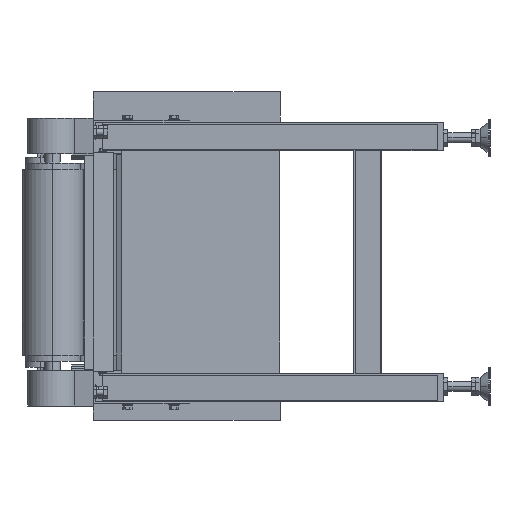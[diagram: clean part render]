
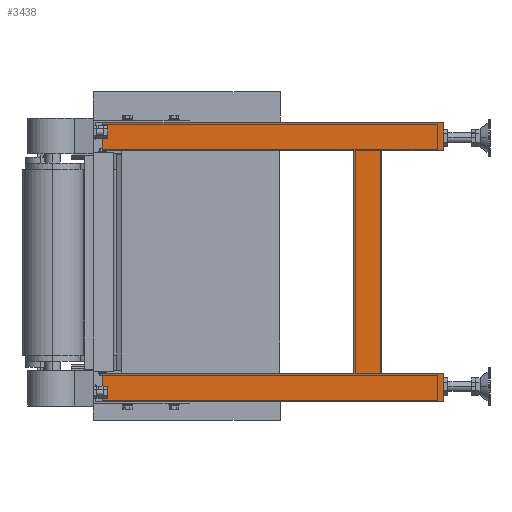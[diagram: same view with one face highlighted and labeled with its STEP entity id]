
A CAD part, left-side view. The second image highlights one B-rep face of the part: STEP entity #3438.
In plain terms, the highlighted planar face has unit normal (-1, 0, 0).
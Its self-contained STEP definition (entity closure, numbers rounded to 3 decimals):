
#3438=ADVANCED_FACE('',(#22634),#22633,.T.);
#22633=PLANE('',#38204);
#22634=FACE_OUTER_BOUND('',#38205,.T.);
#38201=CARTESIAN_POINT('',(262.5,-685.,-235.));
#38202=DIRECTION('',(-1.,0.,0.));
#38203=DIRECTION('',(0.,0.,1.));
#38204=AXIS2_PLACEMENT_3D('',#38201,#38202,#38203);
#38205=EDGE_LOOP('',(#50284,#50285,#50286,#50287,#50288,#50289,#50290,#50291,#50292,#50293,#50294,#50295,#50296,#50297,#50298,#50299,#50300,#50301));
#50284=ORIENTED_EDGE('',*,*,#57246,.F.);
#50285=ORIENTED_EDGE('',*,*,#57260,.F.);
#50286=ORIENTED_EDGE('',*,*,#56938,.T.);
#50287=ORIENTED_EDGE('',*,*,#57343,.T.);
#50288=ORIENTED_EDGE('',*,*,#57335,.T.);
#50289=ORIENTED_EDGE('',*,*,#57290,.F.);
#50290=ORIENTED_EDGE('',*,*,#57475,.F.);
#50291=ORIENTED_EDGE('',*,*,#57300,.F.);
#50292=ORIENTED_EDGE('',*,*,#57337,.F.);
#50293=ORIENTED_EDGE('',*,*,#57329,.F.);
#50294=ORIENTED_EDGE('',*,*,#57344,.T.);
#50295=ORIENTED_EDGE('',*,*,#56966,.F.);
#50296=ORIENTED_EDGE('',*,*,#56933,.F.);
#50297=ORIENTED_EDGE('',*,*,#57240,.T.);
#50298=ORIENTED_EDGE('',*,*,#57259,.T.);
#50299=ORIENTED_EDGE('',*,*,#57180,.T.);
#50300=ORIENTED_EDGE('',*,*,#57090,.T.);
#50301=ORIENTED_EDGE('',*,*,#57190,.T.);
#56933=EDGE_CURVE('',#86403,#86361,#86410,.T.);
#56938=EDGE_CURVE('',#86444,#86445,#86446,.T.);
#56966=EDGE_CURVE('',#86361,#86631,#86632,.T.);
#57090=EDGE_CURVE('',#87436,#87464,#87471,.T.);
#57180=EDGE_CURVE('',#88077,#87436,#88078,.T.);
#57190=EDGE_CURVE('',#87464,#88138,#88145,.T.);
#57240=EDGE_CURVE('',#86403,#88473,#88474,.T.);
#57246=EDGE_CURVE('',#88507,#88138,#88514,.T.);
#57259=EDGE_CURVE('',#88473,#88077,#88600,.T.);
#57260=EDGE_CURVE('',#86444,#88507,#88606,.T.);
#57290=EDGE_CURVE('',#88808,#88815,#88816,.T.);
#57300=EDGE_CURVE('',#88875,#88800,#88882,.T.);
#57329=EDGE_CURVE('',#89070,#89071,#89072,.T.);
#57335=EDGE_CURVE('',#89110,#88815,#89111,.T.);
#57337=EDGE_CURVE('',#89071,#88875,#89123,.T.);
#57343=EDGE_CURVE('',#86445,#89110,#89164,.T.);
#57344=EDGE_CURVE('',#89070,#86631,#89170,.T.);
#57475=EDGE_CURVE('',#88800,#88808,#90041,.T.);
#86361=VERTEX_POINT('',#114587);
#86403=VERTEX_POINT('',#114611);
#86410=LINE('',#114615,#114616);
#86444=VERTEX_POINT('',#114634);
#86445=VERTEX_POINT('',#114635);
#86446=LINE('',#114636,#114637);
#86631=VERTEX_POINT('',#114737);
#86632=LINE('',#114738,#114739);
#87436=VERTEX_POINT('',#115208);
#87464=VERTEX_POINT('',#115227);
#87471=LINE('',#115232,#115233);
#88077=VERTEX_POINT('',#115604);
#88078=LINE('',#115605,#115606);
#88138=VERTEX_POINT('',#115638);
#88145=LINE('',#115642,#115643);
#88473=VERTEX_POINT('',#115826);
#88474=LINE('',#115827,#115828);
#88507=VERTEX_POINT('',#115847);
#88514=LINE('',#115851,#115852);
#88600=LINE('',#115898,#115899);
#88606=LINE('',#115901,#115902);
#88800=VERTEX_POINT('',#116025);
#88808=VERTEX_POINT('',#116031);
#88815=VERTEX_POINT('',#116036);
#88816=LINE('',#116037,#116038);
#88875=VERTEX_POINT('',#116071);
#88882=LINE('',#116075,#116076);
#89070=VERTEX_POINT('',#116182);
#89071=VERTEX_POINT('',#116183);
#89072=LINE('',#116184,#116185);
#89110=VERTEX_POINT('',#116206);
#89111=LINE('',#116207,#116208);
#89123=LINE('',#116213,#116214);
#89164=LINE('',#116239,#116240);
#89170=LINE('',#116242,#116243);
#90041=LINE('',#116762,#116763);
#114587=CARTESIAN_POINT('',(262.5,-575.,180.));
#114611=CARTESIAN_POINT('',(262.5,-675.,180.));
#114615=CARTESIAN_POINT('',(262.5,-675.,180.));
#114616=VECTOR('',#114617,100.);
#114617=DIRECTION('',(0.,1.,0.));
#114634=CARTESIAN_POINT('',(262.5,-530.,180.));
#114635=CARTESIAN_POINT('',(262.5,-530.,-180.));
#114636=CARTESIAN_POINT('',(262.5,-530.,180.));
#114637=VECTOR('',#114638,360.);
#114638=DIRECTION('',(0.,0.,-1.));
#114737=CARTESIAN_POINT('',(262.5,-575.,-180.));
#114738=CARTESIAN_POINT('',(262.5,-575.,180.));
#114739=VECTOR('',#114740,360.);
#114740=DIRECTION('',(0.,0.,-1.));
#115208=CARTESIAN_POINT('',(262.5,-180.417,225.));
#115227=CARTESIAN_POINT('',(262.5,-168.768,225.));
#115232=CARTESIAN_POINT('',(262.5,-180.417,225.));
#115233=VECTOR('',#115234,11.649);
#115234=DIRECTION('',(0.,1.,0.));
#115604=CARTESIAN_POINT('',(262.5,-265.,225.));
#115605=CARTESIAN_POINT('',(262.5,-265.,225.));
#115606=VECTOR('',#115607,84.583);
#115607=DIRECTION('',(0.,1.,0.));
#115638=CARTESIAN_POINT('',(262.5,-125.,225.));
#115642=CARTESIAN_POINT('',(262.5,-168.768,225.));
#115643=VECTOR('',#115644,43.768);
#115644=DIRECTION('',(0.,1.,0.));
#115826=CARTESIAN_POINT('',(262.5,-675.,225.));
#115827=CARTESIAN_POINT('',(262.5,-675.,180.));
#115828=VECTOR('',#115829,45.);
#115829=DIRECTION('',(0.,0.,1.));
#115847=CARTESIAN_POINT('',(262.5,-125.,180.));
#115851=CARTESIAN_POINT('',(262.5,-125.,180.));
#115852=VECTOR('',#115853,45.);
#115853=DIRECTION('',(0.,0.,1.));
#115898=CARTESIAN_POINT('',(262.5,-675.,225.));
#115899=VECTOR('',#115900,410.);
#115900=DIRECTION('',(0.,1.,0.));
#115901=CARTESIAN_POINT('',(262.5,-530.,180.));
#115902=VECTOR('',#115903,405.);
#115903=DIRECTION('',(0.,1.,0.));
#116025=CARTESIAN_POINT('',(262.5,-180.417,-225.));
#116031=CARTESIAN_POINT('',(262.5,-168.768,-225.));
#116036=CARTESIAN_POINT('',(262.5,-125.,-225.));
#116037=CARTESIAN_POINT('',(262.5,-168.768,-225.));
#116038=VECTOR('',#116039,43.768);
#116039=DIRECTION('',(0.,1.,0.));
#116071=CARTESIAN_POINT('',(262.5,-265.,-225.));
#116075=CARTESIAN_POINT('',(262.5,-265.,-225.));
#116076=VECTOR('',#116077,84.583);
#116077=DIRECTION('',(0.,1.,0.));
#116182=CARTESIAN_POINT('',(262.5,-675.,-180.));
#116183=CARTESIAN_POINT('',(262.5,-675.,-225.));
#116184=CARTESIAN_POINT('',(262.5,-675.,-180.));
#116185=VECTOR('',#116186,45.);
#116186=DIRECTION('',(0.,0.,-1.));
#116206=CARTESIAN_POINT('',(262.5,-125.,-180.));
#116207=CARTESIAN_POINT('',(262.5,-125.,-180.));
#116208=VECTOR('',#116209,45.);
#116209=DIRECTION('',(0.,0.,-1.));
#116213=CARTESIAN_POINT('',(262.5,-675.,-225.));
#116214=VECTOR('',#116215,410.);
#116215=DIRECTION('',(0.,1.,0.));
#116239=CARTESIAN_POINT('',(262.5,-530.,-180.));
#116240=VECTOR('',#116241,405.);
#116241=DIRECTION('',(0.,1.,0.));
#116242=CARTESIAN_POINT('',(262.5,-675.,-180.));
#116243=VECTOR('',#116244,100.);
#116244=DIRECTION('',(0.,1.,0.));
#116762=CARTESIAN_POINT('',(262.5,-180.417,-225.));
#116763=VECTOR('',#116764,11.649);
#116764=DIRECTION('',(0.,1.,0.));
